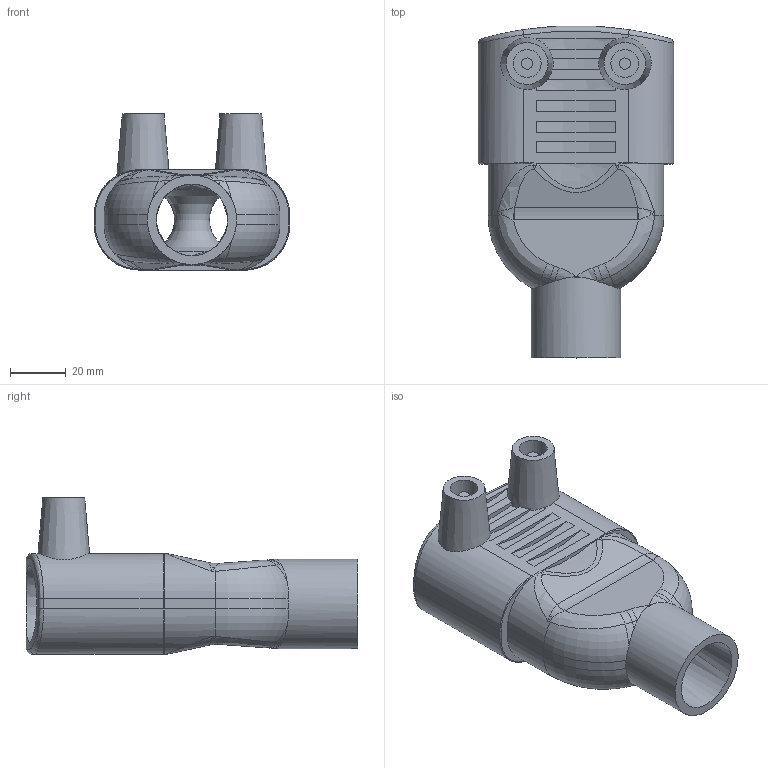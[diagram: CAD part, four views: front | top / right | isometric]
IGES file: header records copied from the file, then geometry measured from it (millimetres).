
Global section: file name: 491904032025.ipt; native system: Autodesk Inventor 2015; preprocessor: unknown; author: KIM; date: 20171106.093913; units: millimetre
Bounding box: 70 x 118.94 x 56 mm (x, y, z)
Volume: 120240.8 mm3; surface area: 38368.6 mm2
Topology: 1 solids, 1 shells, 174 faces, 416 edges, 255 vertices
Faces by surface type: plane 52, bspline 52, revolution 42, cylinder 26, cone 2
Full cylindrical faces by diameter (mm): 4 x2, 32 x1
